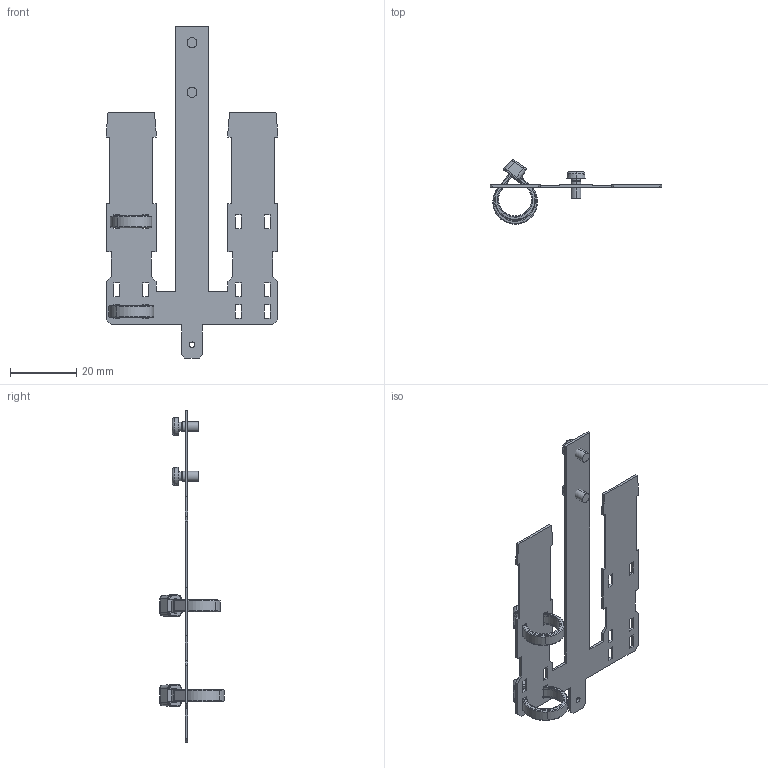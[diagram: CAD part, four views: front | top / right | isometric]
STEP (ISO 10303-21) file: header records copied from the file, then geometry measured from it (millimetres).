
FILE_DESCRIPTION (( 'STEP AP214' ), '1' );
FILE_NAME ('_741000036_LIMAX1R Connector Kit_LIMAX1R Connector Kit_3D-Daten.step', '2025-05-06T12:14:17', ( '' ), ( '' ), 'SwSTEP 2.0', 'SolidWorks 2024', '' );
FILE_SCHEMA (( 'AUTOMOTIVE_DESIGN' ));
Length unit declared in the file: millimetre
Products named in the file (5): Kabelbinder 142mm x 3.6mm_montiert D10; Kabelbinder 142mm x 3.6mm_montiert D11; ZSchr H SN213307-4.8 znb,M3x6; _741000036_LIMAX1R Connector Kit_LIMAX1R Connector Kit_3D-Daten; Z-105369_Abwicklung Standard
Assembly tree (5 placements, depth 2):
  _741000036_LIMAX1R Connector Kit_LIMAX1R Connector Kit_3D-Daten
    Kabelbinder 142mm x 3.6mm_montiert D11
    Z-105369_Abwicklung Standard
    ZSchr H SN213307-4.8 znb,M3x6  x2
    Kabelbinder 142mm x 3.6mm_montiert D10
Bounding box: 51.6 x 19.38 x 100 mm (x, y, z)
Volume: 2818.9 mm3; surface area: 7423.6 mm2
Topology: 5 solids, 5 shells, 436 faces, 1102 edges, 676 vertices
Faces by surface type: plane 236, cylinder 90, bspline 60, cone 26, torus 24
Entity records: 13480 total; most frequent: CARTESIAN_POINT 3880, ORIENTED_EDGE 2084, DIRECTION 1794, EDGE_CURVE 1042, VECTOR 670, LINE 670, VERTEX_POINT 638, AXIS2_PLACEMENT_3D 562
